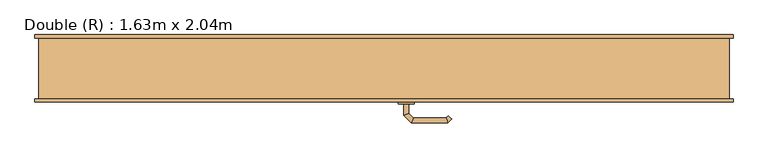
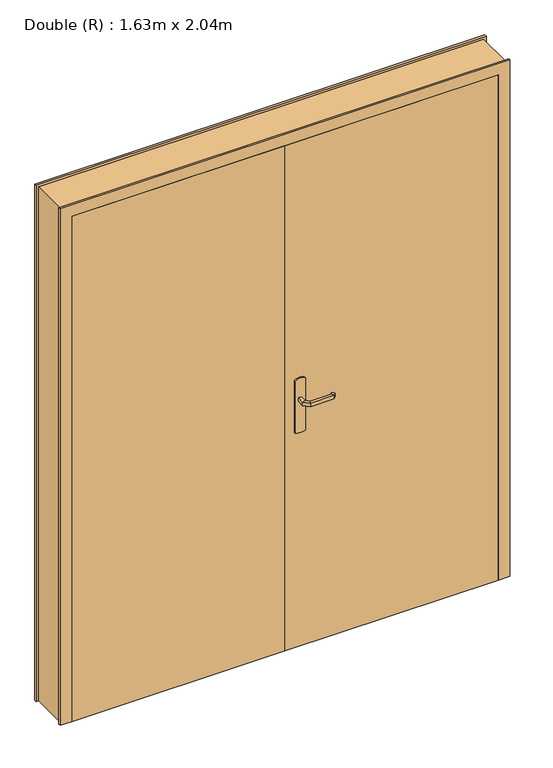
"""IFC4 building model written with IfcOpenShell, lengths in millimetres: door geometry, Double (R) : 1.63m x 2.04m."""

from ifc_helpers import new_model, si_unit, point, frame, frame_2d, origin, origin_with_axes, place, context, project, spatial, polyline, circle_curve, ellipse_curve, trimmed, segment, composite_curve, outline, extrude, faceted_brep, source, transform, mapped, element, save
from ifc_brep_helpers import plane_surface, cylinder_surface, advanced_brep


def double_r_1_63m_x_2_04m_2a7b6570(model_context):
    return source(origin(), model_context, "Body", "SolidModel", [
        advanced_brep(
        [(61.0, -38.0, 993.0), (61.0, -38.0, 1007.0), (49.0, -38.0, 1007.0), (49.0, -38.0, 993.0), (61.0, -15.5147955, 993.0), (61.0, -15.5147955, 1007.0), (49.0, -10.5442327, 1007.0), (49.0, -10.5442327, 993.0), (72.4852814, -4.0295141, 993.0), (72.4852814, -4.0295141, 1007.0), (67.5147186, 7.9704859, 1007.0), (67.5147186, 7.9704859, 993.0), (152.5605023, -4.0295141, 993.0), (152.5605023, -4.0295141, 1007.0), (157.531065, 7.9704859, 1007.0), (157.531065, 7.9704859, 993.0), (157.8742108, -9.3432226, 993.0), (166.3594922, -0.8579412, 993.0), (166.3594922, -0.8579412, 1007.0), (157.8742108, -9.3432226, 1007.0)],
        [
            (0, 1),
            (1, 2, circle_curve(frame((55.0, -38.0, 986.9542278), z_axis=(0.0, -1.0, 0.0), x_axis=(-1.0, 0.0, 0.0)), 20.9244589)),
            (2, 3),
            (3, 0, circle_curve(frame((55.0, -38.0, 1013.0457722), z_axis=(0.0, -1.0, 0.0), x_axis=(-1.0, 0.0, 0.0)), 20.9244589)),
            (0, 4),
            (4, 5),
            (5, 1),
            (5, 6, ellipse_curve(frame((55.0, -13.0295141, 986.9542278), z_axis=(-0.38268343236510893, -0.9238795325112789, 0.0), x_axis=(0.9238795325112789, -0.3826834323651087, 0.0)), 22.6484711, 20.9244589)),
            (6, 2),
            (6, 7),
            (7, 3),
            (7, 4, ellipse_curve(frame((55.0, -13.0295141, 1013.0457722), z_axis=(-0.38268343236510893, -0.9238795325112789, 0.0), x_axis=(0.9238795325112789, -0.3826834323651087, 0.0)), 22.6484711, 20.9244589)),
            (4, 8),
            (8, 9),
            (9, 5),
            (9, 10, ellipse_curve(frame((70.0, 1.9704859, 986.9542278), z_axis=(-0.9238795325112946, -0.38268343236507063, 0.0), x_axis=(0.3826834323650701, -0.9238795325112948, 0.0)), 22.6484711, 20.9244589)),
            (10, 6),
            (10, 11),
            (11, 7),
            (11, 8, ellipse_curve(frame((70.0, 1.9704859, 1013.0457722), z_axis=(-0.9238795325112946, -0.38268343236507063, 0.0), x_axis=(0.3826834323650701, -0.9238795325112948, 0.0)), 22.6484711, 20.9244589)),
            (8, 12),
            (12, 13),
            (13, 9),
            (13, 14, ellipse_curve(frame((155.0457837, 1.9704859, 986.9542278), z_axis=(-0.9238795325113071, 0.38268343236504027, 0.0), x_axis=(-0.38268343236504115, -0.9238795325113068, 0.0)), 22.6484711, 20.9244589)),
            (14, 10),
            (14, 15),
            (15, 11),
            (15, 12, ellipse_curve(frame((155.0457837, 1.9704859, 1013.0457722), z_axis=(-0.9238795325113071, 0.38268343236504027, 0.0), x_axis=(-0.38268343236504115, -0.9238795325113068, 0.0)), 22.6484711, 20.9244589)),
            (16, 17, circle_curve(frame((162.1168515, -5.1005819, 1013.0457722), z_axis=(0.7071067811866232, -0.7071067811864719, 0.0), x_axis=(0.7071067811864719, 0.7071067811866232, 0.0)), 20.9244589)),
            (17, 18),
            (18, 19, circle_curve(frame((162.1168515, -5.1005819, 986.9542278), z_axis=(0.7071067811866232, -0.7071067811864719, 0.0), x_axis=(0.7071067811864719, 0.7071067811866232, 0.0)), 20.9244589)),
            (19, 16),
            (12, 16),
            (19, 13),
            (18, 14),
            (17, 15),
        ],
        [
            plane_surface(frame((45.7804555, -38.0, 1000.0), z_axis=(0.0, -1.0, 0.0), x_axis=(0.0, 0.0, 1.0))),
            plane_surface(frame((61.0, -38.0, 993.0), z_axis=(1.0, 0.0, 0.0), x_axis=(0.0, 1.0, 0.0))),
            cylinder_surface(frame((55.0, -38.0, 986.9542278), z_axis=(0.0, -1.0, 0.0), x_axis=(-1.0, 0.0, 0.0)), 20.9244589),
            plane_surface(frame((49.0, -38.0, 1007.0), z_axis=(-1.0, 0.0, 0.0), x_axis=(0.0, 1.0, 0.0))),
            cylinder_surface(frame((55.0, -38.0, 1013.0457722), z_axis=(0.0, -1.0, 0.0), x_axis=(-1.0, 0.0, 0.0)), 20.9244589),
            plane_surface(frame((61.0, -15.5147955, 993.0), z_axis=(0.707106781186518, -0.707106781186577, 0.0), x_axis=(0.707106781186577, 0.707106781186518, 0.0))),
            cylinder_surface(frame((55.0, -13.0295141, 986.9542278), z_axis=(-0.7071067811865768, -0.7071067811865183, 0.0), x_axis=(-0.7071067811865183, 0.7071067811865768, 0.0)), 20.9244589),
            plane_surface(frame((49.0, -10.5442327, 1007.0), z_axis=(-0.7071067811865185, 0.7071067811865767, 0.0), x_axis=(0.7071067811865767, 0.7071067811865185, 0.0))),
            cylinder_surface(frame((55.0, -13.0295141, 1013.0457722), z_axis=(-0.7071067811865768, -0.7071067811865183, 0.0), x_axis=(-0.7071067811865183, 0.7071067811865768, 0.0)), 20.9244589),
            plane_surface(frame((72.4852814, -4.0295141, 993.0), z_axis=(0.0, -1.0, 0.0), x_axis=(1.0, 0.0, 0.0))),
            cylinder_surface(frame((70.0, 1.9704859, 986.9542278), z_axis=(-1.0, 0.0, 0.0), x_axis=(0.0, 1.0, 0.0)), 20.9244589),
            plane_surface(frame((67.5147186, 7.9704859, 1007.0), z_axis=(0.0, 1.0, 0.0), x_axis=(1.0, 0.0, 0.0))),
            cylinder_surface(frame((70.0, 1.9704859, 1013.0457722), z_axis=(-1.0, 0.0, 0.0), x_axis=(0.0, 1.0, 0.0)), 20.9244589),
            plane_surface(frame((162.1168515, -5.1005819, 990.7804555), z_axis=(0.7071067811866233, -0.7071067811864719, 0.0), x_axis=(0.7071067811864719, 0.7071067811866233, 0.0))),
            plane_surface(frame((152.5605023, -4.0295141, 993.0), z_axis=(-0.707106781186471, -0.7071067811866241, 0.0), x_axis=(0.7071067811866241, -0.707106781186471, 0.0))),
            cylinder_surface(frame((155.0457837, 1.9704859, 986.9542278), z_axis=(-0.7071067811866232, 0.7071067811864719, 0.0), x_axis=(0.7071067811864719, 0.7071067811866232, 0.0)), 20.9244589),
            plane_surface(frame((157.531065, 7.9704859, 1007.0), z_axis=(0.7071067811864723, 0.7071067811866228, 0.0), x_axis=(0.7071067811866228, -0.7071067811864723, 0.0))),
            cylinder_surface(frame((155.0457837, 1.9704859, 1013.0457722), z_axis=(-0.7071067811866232, 0.7071067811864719, 0.0), x_axis=(0.7071067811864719, 0.7071067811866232, 0.0)), 20.9244589),
        ],
        [
            (0, [[1, 2, 3, 4]]),
            (1, [[-1, 5, 6, 7]]),
            (2, [[-2, -7, 8, 9]]),
            (3, [[-3, -9, 10, 11]]),
            (4, [[-4, -11, 12, -5]]),
            (5, [[-6, 13, 14, 15]]),
            (6, [[-8, -15, 16, 17]]),
            (7, [[-10, -17, 18, 19]]),
            (8, [[-12, -19, 20, -13]]),
            (9, [[-14, 21, 22, 23]]),
            (10, [[-16, -23, 24, 25]]),
            (11, [[-18, -25, 26, 27]]),
            (12, [[-20, -27, 28, -21]]),
            (13, [[29, 30, 31, 32]]),
            (14, [[-22, 33, -32, 34]]),
            (15, [[-24, -34, -31, 35]]),
            (16, [[-26, -35, -30, 36]]),
            (17, [[-28, -36, -29, -33]]),
        ],
    ),
        advanced_brep(
        [(49.0, -88.0, 1007.0), (61.0, -88.0, 1007.0), (61.0, -88.0, 993.0), (49.0, -88.0, 993.0), (49.0, -115.6509507, 1007.0), (61.0, -110.680388, 1007.0), (61.0, -110.680388, 993.0), (49.0, -115.6509507, 993.0), (67.37721, -134.0281607, 1007.0), (72.3477727, -122.0281607, 1007.0), (72.3477727, -122.0281607, 993.0), (67.37721, -134.0281607, 993.0), (157.503922, -134.0281607, 1007.0), (152.5333592, -122.0281607, 1007.0), (152.5333592, -122.0281607, 993.0), (157.503922, -134.0281607, 993.0), (166.3323491, -125.1997336, 1007.0), (166.3323491, -125.1997336, 993.0), (157.8470677, -116.7144522, 993.0), (157.8470677, -116.7144522, 1007.0)],
        [
            (0, 1, circle_curve(frame((55.0, -88.0, 986.9542278), z_axis=(0.0, 1.0, 0.0), x_axis=(1.0, 0.0, 0.0)), 20.9244589)),
            (1, 2),
            (2, 3, circle_curve(frame((55.0, -88.0, 1013.0457722), z_axis=(0.0, 1.0, 0.0), x_axis=(1.0, 0.0, 0.0)), 20.9244589)),
            (3, 0),
            (0, 4),
            (4, 5, ellipse_curve(frame((55.0, -113.1656693, 986.9542278), z_axis=(-0.3826834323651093, 0.9238795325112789, 0.0), x_axis=(0.9238795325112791, 0.38268343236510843, 0.0)), 22.6484711, 20.9244589)),
            (5, 1),
            (5, 6),
            (6, 2),
            (6, 7, ellipse_curve(frame((55.0, -113.1656693, 1013.0457722), z_axis=(-0.3826834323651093, 0.9238795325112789, 0.0), x_axis=(0.9238795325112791, 0.38268343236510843, 0.0)), 22.6484711, 20.9244589)),
            (7, 3),
            (7, 4),
            (4, 8),
            (8, 9, ellipse_curve(frame((69.8624914, -128.0281607, 986.9542278), z_axis=(-0.9238795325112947, 0.38268343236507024, 0.0), x_axis=(0.3826834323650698, 0.9238795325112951, 0.0)), 22.6484711, 20.9244589)),
            (9, 5),
            (9, 10),
            (10, 6),
            (10, 11, ellipse_curve(frame((69.8624914, -128.0281607, 1013.0457722), z_axis=(-0.9238795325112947, 0.38268343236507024, 0.0), x_axis=(0.3826834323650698, 0.9238795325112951, 0.0)), 22.6484711, 20.9244589)),
            (11, 7),
            (11, 8),
            (8, 12),
            (12, 13, ellipse_curve(frame((155.0186406, -128.0281607, 986.9542278), z_axis=(-0.9238795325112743, -0.3826834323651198, 0.0), x_axis=(-0.38268343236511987, 0.9238795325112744, 0.0)), 22.6484711, 20.9244589)),
            (13, 9),
            (13, 14),
            (14, 10),
            (14, 15, ellipse_curve(frame((155.0186406, -128.0281607, 1013.0457722), z_axis=(-0.9238795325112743, -0.3826834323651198, 0.0), x_axis=(-0.38268343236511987, 0.9238795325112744, 0.0)), 22.6484711, 20.9244589)),
            (15, 11),
            (15, 12),
            (16, 17),
            (17, 18, circle_curve(frame((162.0897084, -120.9570929, 1013.0457722), z_axis=(0.7071067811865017, 0.7071067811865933, 0.0), x_axis=(-0.7071067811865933, 0.7071067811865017, 0.0)), 20.9244589)),
            (18, 19),
            (19, 16, circle_curve(frame((162.0897084, -120.9570929, 986.9542278), z_axis=(0.7071067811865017, 0.7071067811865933, 0.0), x_axis=(-0.7071067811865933, 0.7071067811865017, 0.0)), 20.9244589)),
            (12, 16),
            (19, 13),
            (18, 14),
            (17, 15),
        ],
        [
            plane_surface(frame((45.7804555, -88.0, 1000.0), z_axis=(0.0, 1.0, 0.0), x_axis=(0.0, 0.0, -1.0))),
            cylinder_surface(frame((55.0, -88.0, 986.9542278), z_axis=(0.0, 1.0, 0.0), x_axis=(1.0, 0.0, 0.0)), 20.9244589),
            plane_surface(frame((61.0, -88.0, 1007.0), z_axis=(1.0, 0.0, 0.0), x_axis=(0.0, -1.0, 0.0))),
            cylinder_surface(frame((55.0, -88.0, 1013.0457722), z_axis=(0.0, 1.0, 0.0), x_axis=(1.0, 0.0, 0.0)), 20.9244589),
            plane_surface(frame((49.0, -88.0, 993.0), z_axis=(-1.0, 0.0, 0.0), x_axis=(0.0, -1.0, 0.0))),
            cylinder_surface(frame((55.0, -113.1656693, 986.9542278), z_axis=(-0.7071067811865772, 0.7071067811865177, 0.0), x_axis=(0.7071067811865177, 0.7071067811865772, 0.0)), 20.9244589),
            plane_surface(frame((61.0, -110.680388, 1007.0), z_axis=(0.7071067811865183, 0.7071067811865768, 0.0), x_axis=(0.7071067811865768, -0.7071067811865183, 0.0))),
            cylinder_surface(frame((55.0, -113.1656693, 1013.0457722), z_axis=(-0.7071067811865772, 0.7071067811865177, 0.0), x_axis=(0.7071067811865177, 0.7071067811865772, 0.0)), 20.9244589),
            plane_surface(frame((49.0, -115.6509507, 993.0), z_axis=(-0.707106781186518, -0.707106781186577, 0.0), x_axis=(0.707106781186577, -0.707106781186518, 0.0))),
            cylinder_surface(frame((69.8624914, -128.0281607, 986.9542278), z_axis=(-1.0, 0.0, 0.0), x_axis=(0.0, 1.0, 0.0)), 20.9244589),
            plane_surface(frame((72.3477727, -122.0281607, 1007.0), z_axis=(0.0, 1.0, 0.0), x_axis=(1.0, 0.0, 0.0))),
            cylinder_surface(frame((69.8624914, -128.0281607, 1013.0457722), z_axis=(-1.0, 0.0, 0.0), x_axis=(0.0, 1.0, 0.0)), 20.9244589),
            plane_surface(frame((67.37721, -134.0281607, 993.0), z_axis=(0.0, -1.0, 0.0), x_axis=(1.0, 0.0, 0.0))),
            plane_surface(frame((162.0897084, -120.9570929, 1009.2195445), z_axis=(0.7071067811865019, 0.7071067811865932, 0.0), x_axis=(0.7071067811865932, -0.7071067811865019, 0.0))),
            cylinder_surface(frame((155.0186406, -128.0281607, 986.9542278), z_axis=(-0.7071067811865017, -0.7071067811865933, 0.0), x_axis=(-0.7071067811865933, 0.7071067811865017, 0.0)), 20.9244589),
            plane_surface(frame((152.5333592, -122.0281607, 1007.0), z_axis=(-0.7071067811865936, 0.7071067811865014, 0.0), x_axis=(0.7071067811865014, 0.7071067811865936, 0.0))),
            cylinder_surface(frame((155.0186406, -128.0281607, 1013.0457722), z_axis=(-0.7071067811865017, -0.7071067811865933, 0.0), x_axis=(-0.7071067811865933, 0.7071067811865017, 0.0)), 20.9244589),
            plane_surface(frame((157.503922, -134.0281607, 993.0), z_axis=(0.707106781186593, -0.7071067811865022, 0.0), x_axis=(0.7071067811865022, 0.707106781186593, 0.0))),
        ],
        [
            (0, [[1, 2, 3, 4]]),
            (1, [[-1, 5, 6, 7]]),
            (2, [[-2, -7, 8, 9]]),
            (3, [[-3, -9, 10, 11]]),
            (4, [[-4, -11, 12, -5]]),
            (5, [[-6, 13, 14, 15]]),
            (6, [[-8, -15, 16, 17]]),
            (7, [[-10, -17, 18, 19]]),
            (8, [[-12, -19, 20, -13]]),
            (9, [[-14, 21, 22, 23]]),
            (10, [[-16, -23, 24, 25]]),
            (11, [[-18, -25, 26, 27]]),
            (12, [[-20, -27, 28, -21]]),
            (13, [[29, 30, 31, 32]]),
            (14, [[-22, 33, -32, 34]]),
            (15, [[-24, -34, -31, 35]]),
            (16, [[-26, -35, -30, 36]]),
            (17, [[-28, -36, -29, -33]]),
        ],
    ),
        extrude(outline(composite_curve([segment(trimmed(circle_curve(frame_2d((1045.3589838, 55.0)), 40.0), [point((1080.0, 75.0))], [point((1080.0, 35.0))], False, "CARTESIAN"), True, "CONTINUOUS"), segment(polyline([(1080.0, 35.0), (870.0, 35.0)]), True, "CONTINUOUS"), segment(trimmed(circle_curve(frame_2d((904.6410162, 55.0)), 40.0), [point((870.0, 35.0))], [point((870.0, 75.0))], False, "CARTESIAN"), True, "CONTINUOUS"), segment(polyline([(870.0, 75.0), (1080.0, 75.0)]), True, "CONTINUOUS")], self_intersect=False)), frame((0.0, -43.0, 0.0), z_axis=(0.0, 1.0, 0.0), x_axis=(0.0, 0.0, 1.0)), (0.0, 0.0, 1.0), 5.0),
        extrude(outline(composite_curve([segment(trimmed(circle_curve(frame_2d((904.6410162, 55.0)), 40.0), [point((870.0, 35.0))], [point((870.0, 75.0))], False, "CARTESIAN"), True, "CONTINUOUS"), segment(polyline([(870.0, 75.0), (1080.0, 75.0)]), True, "CONTINUOUS"), segment(trimmed(circle_curve(frame_2d((1045.3589838, 55.0)), 40.0), [point((1080.0, 75.0))], [point((1080.0, 35.0))], False, "CARTESIAN"), True, "CONTINUOUS"), segment(polyline([(1080.0, 35.0), (870.0, 35.0)]), True, "CONTINUOUS")], self_intersect=False)), frame((0.0, -88.0, 0.0), z_axis=(0.0, 1.0, 0.0), x_axis=(0.0, 0.0, 1.0)), (0.0, 0.0, 1.0), 5.0),
        faceted_brep([(-850.0, -75.0, 0.0), (-850.0, 75.0, 0.0), (-860.0, 75.0, 0.0), (-860.0, 83.0, 0.0), (-800.0, 83.0, 0.0), (-800.0, -43.0, 0.0), (-815.0, -43.0, 0.0), (-815.0, -83.0, 0.0), (-860.0, -83.0, 0.0), (-860.0, -75.0, 0.0), (-850.0, -75.0, 2075.0), (-850.0, 75.0, 2075.0), (850.0, 75.0, 2075.0), (850.0, 75.0, 0.0), (860.0, 75.0, 0.0), (860.0, 75.0, 2085.0), (-860.0, 75.0, 2085.0), (-860.0, 83.0, 2085.0), (860.0, 83.0, 2085.0), (860.0, 83.0, 0.0), (800.0, 83.0, 0.0), (800.0, 83.0, 2025.0), (-800.0, 83.0, 2025.0), (-800.0, -43.0, 2025.0), (800.0, -43.0, 2025.0), (800.0, -43.0, 0.0), (815.0, -43.0, 0.0), (815.0, -43.0, 2040.0), (-815.0, -43.0, 2040.0), (-815.0, -83.0, 2040.0), (815.0, -83.0, 2040.0), (815.0, -83.0, 0.0), (860.0, -83.0, 0.0), (860.0, -83.0, 2085.0), (-860.0, -83.0, 2085.0), (-860.0, -75.0, 2085.0), (860.0, -75.0, 2085.0), (860.0, -75.0, 0.0), (850.0, -75.0, 0.0), (850.0, -75.0, 2075.0)], [[[0, 1, 2, 3, 4, 5, 6, 7, 8, 9]], [[1, 0, 10, 11]], [[2, 1, 11, 12, 13, 14, 15, 16]], [[3, 2, 16, 17]], [[4, 3, 17, 18, 19, 20, 21, 22]], [[5, 4, 22, 23]], [[6, 5, 23, 24, 25, 26, 27, 28]], [[7, 6, 28, 29]], [[8, 7, 29, 30, 31, 32, 33, 34]], [[9, 8, 34, 35]], [[0, 9, 35, 36, 37, 38, 39, 10]], [[12, 39, 38, 13]], [[38, 37, 32, 31, 26, 25, 20, 19, 14, 13]], [[18, 15, 14, 19]], [[24, 21, 20, 25]], [[30, 27, 26, 31]], [[36, 33, 32, 37]], [[11, 10, 39, 12]], [[17, 16, 15, 18]], [[23, 22, 21, 24]], [[29, 28, 27, 30]], [[35, 34, 33, 36]]]),
        extrude(outline(polyline([(815.0, -83.0), (0.0, -83.0), (0.0, -43.0), (815.0, -43.0), (815.0, -83.0)])), origin_with_axes(), (0.0, 0.0, 1.0), 2040.0),
        extrude(outline(polyline([(0.0, -83.0), (-815.0, -83.0), (-815.0, -43.0), (0.0, -43.0), (0.0, -83.0)])), origin_with_axes(), (0.0, 0.0, 1.0), 2040.0),
    ])


if __name__ == "__main__":
    model = new_model("IFC4")
    model_context = context("Model", 3, world=origin())
    ifc_project = project(units=[si_unit("LENGTHUNIT", "METRE", prefix="MILLI")], contexts=[model_context])
    site = spatial("IfcSite", under=ifc_project)
    building = spatial("IfcBuilding", under=site)
    placement = place(None, origin())
    double_r_1_63m_x_2_04m_shape = double_r_1_63m_x_2_04m_2a7b6570(model_context)
    element("IfcDoor", 1, ObjectType="Double (R) : 1.63m x 2.04m", at=placement, inside=building, context=model_context, shape_type="MappedRepresentation", body=[
        mapped(double_r_1_63m_x_2_04m_shape, transform((0.0, 0.0, 0.0), x_axis=(1.0, 0.0, 0.0), y_axis=(0.0, 1.0, 0.0), z_axis=(0.0, 0.0, 1.0))),
    ])
    save(model, "model.ifc")
